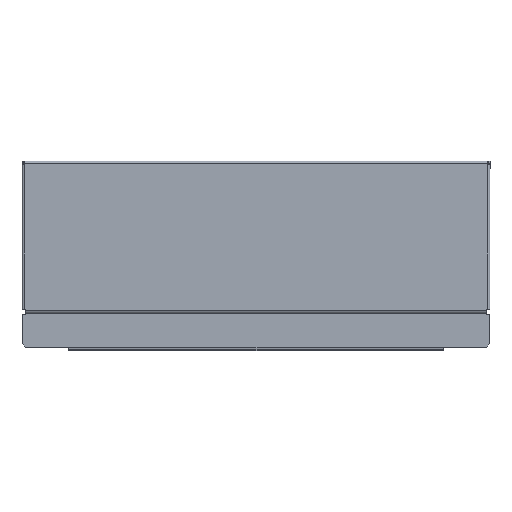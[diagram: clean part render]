
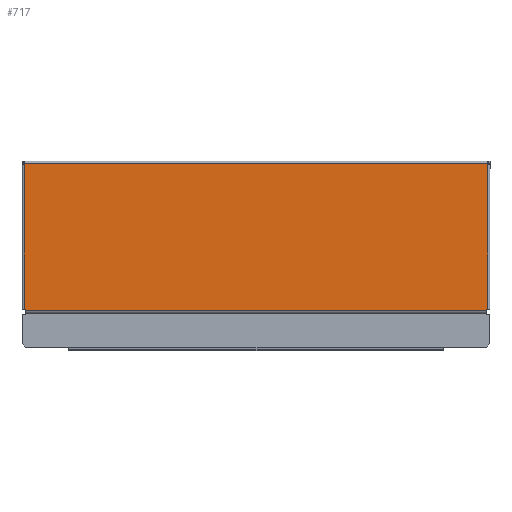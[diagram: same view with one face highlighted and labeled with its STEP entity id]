
A CAD part, front view. The second image highlights one B-rep face of the part: STEP entity #717.
In plain terms, the highlighted planar face has unit normal (0, -1, 0).
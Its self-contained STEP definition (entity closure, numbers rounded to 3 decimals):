
#161 = DIRECTION ( 'NONE',  ( 0., 0., -1. ) ) ;
#192 = CARTESIAN_POINT ( 'NONE',  ( -103.5, -6., 17.5 ) ) ;
#211 = VERTEX_POINT ( 'NONE', #438 ) ;
#219 = VERTEX_POINT ( 'NONE', #435 ) ;
#223 = VERTEX_POINT ( 'NONE', #434 ) ;
#232 = VERTEX_POINT ( 'NONE', #429 ) ;
#240 = DIRECTION ( 'NONE',  ( 1., 0., 0. ) ) ;
#241 = DIRECTION ( 'NONE',  ( 0., -1., 0. ) ) ;
#243 = CARTESIAN_POINT ( 'NONE',  ( -105., -6., 17. ) ) ;
#244 = PLANE ( 'NONE',  #824 ) ;
#254 = VERTEX_POINT ( 'NONE', #421 ) ;
#258 = VERTEX_POINT ( 'NONE', #420 ) ;
#262 = VERTEX_POINT ( 'NONE', #419 ) ;
#265 = VERTEX_POINT ( 'NONE', #418 ) ;
#272 = VERTEX_POINT ( 'NONE', #416 ) ;
#275 = VERTEX_POINT ( 'NONE', #415 ) ;
#278 = DIRECTION ( 'NONE',  ( 1., 0., 0. ) ) ;
#279 = CARTESIAN_POINT ( 'NONE',  ( -105., -6., 17.5 ) ) ;
#316 = DIRECTION ( 'NONE',  ( 0., 0., -1. ) ) ;
#319 = CARTESIAN_POINT ( 'NONE',  ( -104., -6., 101.385 ) ) ;
#364 = DIRECTION ( 'NONE',  ( 0., 0., -1. ) ) ;
#374 = CARTESIAN_POINT ( 'NONE',  ( -104., -6., 101.385 ) ) ;
#390 = DIRECTION ( 'NONE',  ( 1., 0., 0. ) ) ;
#393 = CARTESIAN_POINT ( 'NONE',  ( -105., -6., 83. ) ) ;
#415 = CARTESIAN_POINT ( 'NONE',  ( 104., -6., 83. ) ) ;
#416 = CARTESIAN_POINT ( 'NONE',  ( 104., -6., 17.5 ) ) ;
#418 = CARTESIAN_POINT ( 'NONE',  ( -103.5, -6., 17.5 ) ) ;
#419 = CARTESIAN_POINT ( 'NONE',  ( -104., -6., 82.5 ) ) ;
#420 = CARTESIAN_POINT ( 'NONE',  ( 103.5, -6., 17. ) ) ;
#421 = CARTESIAN_POINT ( 'NONE',  ( -104., -6., 17.5 ) ) ;
#424 = DIRECTION ( 'NONE',  ( 0., 0., -1. ) ) ;
#426 = CARTESIAN_POINT ( 'NONE',  ( 104., -6., 101.385 ) ) ;
#429 = CARTESIAN_POINT ( 'NONE',  ( 104., -6., 82.5 ) ) ;
#430 = DIRECTION ( 'NONE',  ( 0., 0., -1. ) ) ;
#434 = CARTESIAN_POINT ( 'NONE',  ( -104., -6., 83. ) ) ;
#433 = CARTESIAN_POINT ( 'NONE',  ( 104., -6., 101.385 ) ) ;
#435 = CARTESIAN_POINT ( 'NONE',  ( -103.5, -6., 17. ) ) ;
#436 = DIRECTION ( 'NONE',  ( 1., 0., 0. ) ) ;
#438 = CARTESIAN_POINT ( 'NONE',  ( 103.5, -6., 17.5 ) ) ;
#441 = CARTESIAN_POINT ( 'NONE',  ( 103.5, -6., 17.5 ) ) ;
#447 = DIRECTION ( 'NONE',  ( 0., 0., 1. ) ) ;
#450 = CARTESIAN_POINT ( 'NONE',  ( 103.5, -6., 15.3 ) ) ;
#454 = DIRECTION ( 'NONE',  ( 1., 0., 0. ) ) ;
#457 = CARTESIAN_POINT ( 'NONE',  ( -105., -6., 17. ) ) ;
#717 = ADVANCED_FACE ( 'NONE', ( #2044 ), #244, .T. ) ;
#824 = AXIS2_PLACEMENT_3D ( 'NONE', #243, #241, #240 ) ;
#988 = EDGE_LOOP ( 'NONE', ( #1980, #1979, #1978, #1977, #1976, #1975, #1974, #1973, #1972, #1971 ) ) ;
#1669 = EDGE_CURVE ( 'NONE', #262, #254, #2390, .T. ) ;
#1670 = EDGE_CURVE ( 'NONE', #254, #265, #2393, .T. ) ;
#1671 = EDGE_CURVE ( 'NONE', #265, #219, #2395, .T. ) ;
#1672 = EDGE_CURVE ( 'NONE', #219, #258, #2397, .T. ) ;
#1673 = EDGE_CURVE ( 'NONE', #258, #211, #2399, .T. ) ;
#1674 = EDGE_CURVE ( 'NONE', #211, #272, #2401, .T. ) ;
#1675 = EDGE_CURVE ( 'NONE', #232, #272, #2403, .T. ) ;
#1676 = EDGE_CURVE ( 'NONE', #275, #232, #2405, .T. ) ;
#1677 = EDGE_CURVE ( 'NONE', #223, #275, #2407, .T. ) ;
#1678 = EDGE_CURVE ( 'NONE', #223, #262, #2409, .T. ) ;
#1971 = ORIENTED_EDGE ( 'NONE', *, *, #1678, .T. ) ;
#1972 = ORIENTED_EDGE ( 'NONE', *, *, #1677, .F. ) ;
#1973 = ORIENTED_EDGE ( 'NONE', *, *, #1676, .F. ) ;
#1974 = ORIENTED_EDGE ( 'NONE', *, *, #1675, .F. ) ;
#1975 = ORIENTED_EDGE ( 'NONE', *, *, #1674, .T. ) ;
#1976 = ORIENTED_EDGE ( 'NONE', *, *, #1673, .T. ) ;
#1977 = ORIENTED_EDGE ( 'NONE', *, *, #1672, .T. ) ;
#1978 = ORIENTED_EDGE ( 'NONE', *, *, #1671, .T. ) ;
#1979 = ORIENTED_EDGE ( 'NONE', *, *, #1670, .T. ) ;
#1980 = ORIENTED_EDGE ( 'NONE', *, *, #1669, .T. ) ;
#2044 = FACE_OUTER_BOUND ( 'NONE', #988, .T. ) ;
#2390 = LINE ( 'NONE', #374, #2392 ) ;
#2392 = VECTOR ( 'NONE', #364, 1000. ) ;
#2393 = LINE ( 'NONE', #279, #2394 ) ;
#2394 = VECTOR ( 'NONE', #278, 1000. ) ;
#2395 = LINE ( 'NONE', #192, #2396 ) ;
#2396 = VECTOR ( 'NONE', #161, 1000. ) ;
#2397 = LINE ( 'NONE', #457, #2398 ) ;
#2398 = VECTOR ( 'NONE', #454, 1000. ) ;
#2399 = LINE ( 'NONE', #450, #2400 ) ;
#2400 = VECTOR ( 'NONE', #447, 1000. ) ;
#2401 = LINE ( 'NONE', #441, #2402 ) ;
#2402 = VECTOR ( 'NONE', #436, 1000. ) ;
#2403 = LINE ( 'NONE', #433, #2404 ) ;
#2404 = VECTOR ( 'NONE', #430, 1000. ) ;
#2405 = LINE ( 'NONE', #426, #2406 ) ;
#2406 = VECTOR ( 'NONE', #424, 1000. ) ;
#2407 = LINE ( 'NONE', #393, #2408 ) ;
#2408 = VECTOR ( 'NONE', #390, 1000. ) ;
#2409 = LINE ( 'NONE', #319, #2410 ) ;
#2410 = VECTOR ( 'NONE', #316, 1000. ) ;
